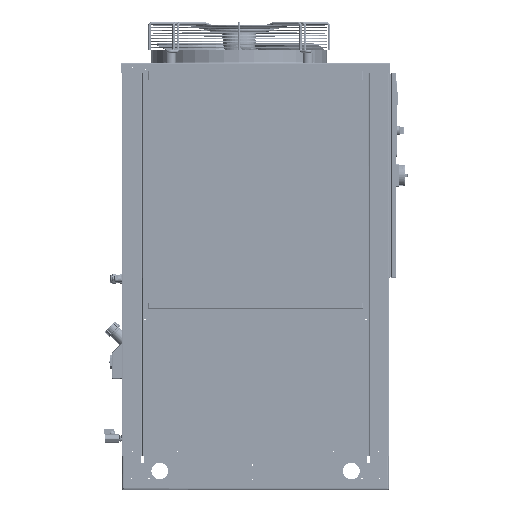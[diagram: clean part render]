
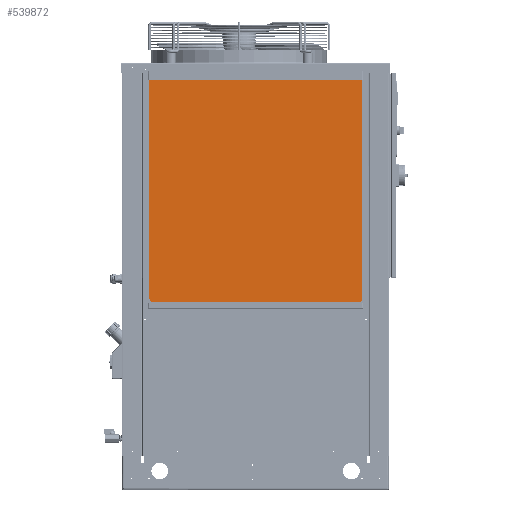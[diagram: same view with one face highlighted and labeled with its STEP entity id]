
A CAD part, top view. The second image highlights one B-rep face of the part: STEP entity #539872.
In plain terms, the highlighted planar face has unit normal (0, 0, 1).
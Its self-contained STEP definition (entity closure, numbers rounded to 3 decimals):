
#1433 = CARTESIAN_POINT ( 'NONE',  ( 301., -328., 2. ) ) ;
#10989 = CARTESIAN_POINT ( 'NONE',  ( 313., -328., 2. ) ) ;
#14101 = CARTESIAN_POINT ( 'NONE',  ( 301., -340., 2. ) ) ;
#26199 = CARTESIAN_POINT ( 'NONE',  ( -301., -340., 2. ) ) ;
#27913 = CARTESIAN_POINT ( 'NONE',  ( 301., 340., 2. ) ) ;
#32096 = CARTESIAN_POINT ( 'NONE',  ( -301., -340., 2. ) ) ;
#45749 = VERTEX_POINT ( 'NONE', #382481 ) ;
#53011 = DIRECTION ( 'NONE',  ( 1., 0., 0. ) ) ;
#56529 = DIRECTION ( 'NONE',  ( 1., 0., 0. ) ) ;
#63439 = EDGE_CURVE ( 'NONE', #370210, #220042, #253001, .T. ) ;
#64507 = CARTESIAN_POINT ( 'NONE',  ( -301., 328., 2. ) ) ;
#68411 = CARTESIAN_POINT ( 'NONE',  ( 313., 328., 2. ) ) ;
#84312 = EDGE_CURVE ( 'NONE', #432786, #468691, #377668, .T. ) ;
#96620 = DIRECTION ( 'NONE',  ( 0., 0., 1. ) ) ;
#103333 = ORIENTED_EDGE ( 'NONE', *, *, #346175, .T. ) ;
#106004 = CARTESIAN_POINT ( 'NONE',  ( -313., -328., 2. ) ) ;
#106317 = AXIS2_PLACEMENT_3D ( 'NONE', #64507, #326260, #456967 ) ;
#113879 = AXIS2_PLACEMENT_3D ( 'NONE', #543871, #142824, #326014 ) ;
#120801 = CARTESIAN_POINT ( 'NONE',  ( -313., -328., 2. ) ) ;
#122125 = DIRECTION ( 'NONE',  ( 1., 0., 0. ) ) ;
#122604 = VECTOR ( 'NONE', #328343, 1000. ) ;
#137678 = DIRECTION ( 'NONE',  ( 0., 0., 1. ) ) ;
#142824 = DIRECTION ( 'NONE',  ( 0., 0., 1. ) ) ;
#144012 = ORIENTED_EDGE ( 'NONE', *, *, #222348, .T. ) ;
#152448 = LINE ( 'NONE', #106004, #234383 ) ;
#165072 = VERTEX_POINT ( 'NONE', #27913 ) ;
#184447 = DIRECTION ( 'NONE',  ( 0., 0., 1. ) ) ;
#193609 = CARTESIAN_POINT ( 'NONE',  ( -301., 340., 2. ) ) ;
#201324 = AXIS2_PLACEMENT_3D ( 'NONE', #396547, #137678, #315124 ) ;
#211883 = VERTEX_POINT ( 'NONE', #120801 ) ;
#220042 = VERTEX_POINT ( 'NONE', #14101 ) ;
#222348 = EDGE_CURVE ( 'NONE', #446975, #45749, #540776, .T. ) ;
#231233 = VECTOR ( 'NONE', #122125, 1000. ) ;
#234383 = VECTOR ( 'NONE', #283396, 1000. ) ;
#250453 = AXIS2_PLACEMENT_3D ( 'NONE', #1433, #184447, #56529 ) ;
#253001 = LINE ( 'NONE', #32096, #231233 ) ;
#274039 = FACE_OUTER_BOUND ( 'NONE', #522869, .T. ) ;
#277491 = EDGE_CURVE ( 'NONE', #45749, #211883, #152448, .T. ) ;
#283396 = DIRECTION ( 'NONE',  ( 0., -1., 0. ) ) ;
#287854 = ORIENTED_EDGE ( 'NONE', *, *, #63439, .T. ) ;
#297281 = CARTESIAN_POINT ( 'NONE',  ( -301., 340., 2. ) ) ;
#312808 = ORIENTED_EDGE ( 'NONE', *, *, #518972, .T. ) ;
#315124 = DIRECTION ( 'NONE',  ( 1., 0., 0. ) ) ;
#326014 = DIRECTION ( 'NONE',  ( 1., 0., 0. ) ) ;
#326260 = DIRECTION ( 'NONE',  ( 0., 0., 1. ) ) ;
#328343 = DIRECTION ( 'NONE',  ( 0., 1., 0. ) ) ;
#331297 = EDGE_CURVE ( 'NONE', #220042, #432786, #361714, .T. ) ;
#343268 = ORIENTED_EDGE ( 'NONE', *, *, #487289, .T. ) ;
#346175 = EDGE_CURVE ( 'NONE', #211883, #370210, #447556, .T. ) ;
#361714 = CIRCLE ( 'NONE', #250453, 12. ) ;
#362471 = DIRECTION ( 'NONE',  ( -1., 0., 0. ) ) ;
#370210 = VERTEX_POINT ( 'NONE', #26199 ) ;
#377668 = LINE ( 'NONE', #424091, #122604 ) ;
#382481 = CARTESIAN_POINT ( 'NONE',  ( -313., 328., 2. ) ) ;
#395100 = ORIENTED_EDGE ( 'NONE', *, *, #84312, .T. ) ;
#396547 = CARTESIAN_POINT ( 'NONE',  ( 301., 328., 2. ) ) ;
#401139 = AXIS2_PLACEMENT_3D ( 'NONE', #494763, #96620, #53011 ) ;
#406049 = LINE ( 'NONE', #193609, #572346 ) ;
#424091 = CARTESIAN_POINT ( 'NONE',  ( 313., -328., 2. ) ) ;
#432786 = VERTEX_POINT ( 'NONE', #10989 ) ;
#435512 = ORIENTED_EDGE ( 'NONE', *, *, #331297, .T. ) ;
#446975 = VERTEX_POINT ( 'NONE', #297281 ) ;
#447556 = CIRCLE ( 'NONE', #401139, 12. ) ;
#454135 = PLANE ( 'NONE',  #106317 ) ;
#456967 = DIRECTION ( 'NONE',  ( 1., 0., 0. ) ) ;
#465343 = ORIENTED_EDGE ( 'NONE', *, *, #277491, .T. ) ;
#468691 = VERTEX_POINT ( 'NONE', #68411 ) ;
#480104 = CIRCLE ( 'NONE', #201324, 12. ) ;
#487289 = EDGE_CURVE ( 'NONE', #165072, #446975, #406049, .T. ) ;
#494763 = CARTESIAN_POINT ( 'NONE',  ( -301., -328., 2. ) ) ;
#518972 = EDGE_CURVE ( 'NONE', #468691, #165072, #480104, .T. ) ;
#522869 = EDGE_LOOP ( 'NONE', ( #144012, #465343, #103333, #287854, #435512, #395100, #312808, #343268 ) ) ;
#539872 = ADVANCED_FACE ( 'NONE', ( #274039 ), #454135, .T. ) ;
#540776 = CIRCLE ( 'NONE', #113879, 12. ) ;
#543871 = CARTESIAN_POINT ( 'NONE',  ( -301., 328., 2. ) ) ;
#572346 = VECTOR ( 'NONE', #362471, 1000. ) ;
